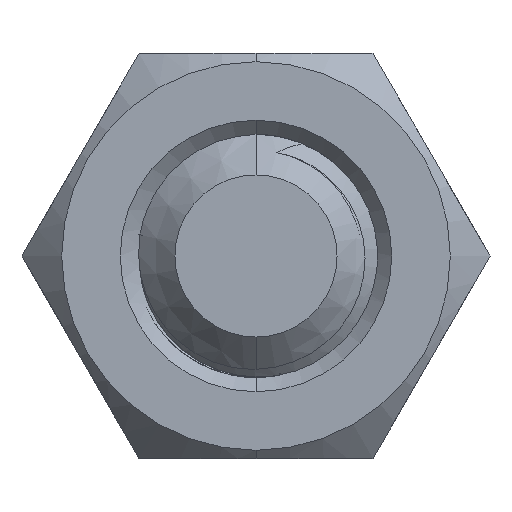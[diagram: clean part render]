
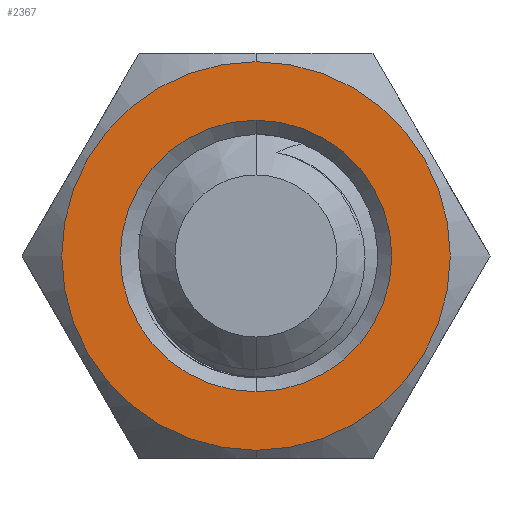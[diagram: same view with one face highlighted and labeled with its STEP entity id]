
A CAD part, front view. The second image highlights one B-rep face of the part: STEP entity #2367.
In plain terms, the highlighted planar face has unit normal (0, -1, 0).
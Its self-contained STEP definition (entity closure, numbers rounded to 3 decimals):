
#1101=CARTESIAN_POINT('',(0.,0.,0.));
#1102=DIRECTION('',(0.,1.,0.));
#1103=DIRECTION('',(0.,0.,-1.));
#1104=AXIS2_PLACEMENT_3D('',#1101,#1102,#1103);
#1106=CARTESIAN_POINT('',(0.,0.,0.));
#1107=DIRECTION('',(0.,1.,0.));
#1108=DIRECTION('',(0.,0.,1.));
#1109=AXIS2_PLACEMENT_3D('',#1106,#1107,#1108);
#1111=CARTESIAN_POINT('',(0.,0.,0.));
#1112=DIRECTION('',(0.,-1.,0.));
#1113=DIRECTION('',(0.,0.,-1.));
#1114=AXIS2_PLACEMENT_3D('',#1111,#1112,#1113);
#1116=CARTESIAN_POINT('',(0.,0.,0.));
#1117=DIRECTION('',(0.,-1.,0.));
#1118=DIRECTION('',(0.,0.,1.));
#1119=AXIS2_PLACEMENT_3D('',#1116,#1117,#1118);
#1153=CARTESIAN_POINT('',(0.,0.,3.35));
#1154=CARTESIAN_POINT('',(0.,0.,-3.35));
#1155=VERTEX_POINT('',#1153);
#1156=VERTEX_POINT('',#1154);
#1169=CARTESIAN_POINT('',(0.,0.,4.794));
#1170=CARTESIAN_POINT('',(0.,0.,-4.794));
#1171=VERTEX_POINT('',#1169);
#1172=VERTEX_POINT('',#1170);
#2354=CARTESIAN_POINT('',(0.,0.,0.));
#2355=DIRECTION('',(0.,1.,0.));
#2356=DIRECTION('',(0.,0.,1.));
#2357=AXIS2_PLACEMENT_3D('',#2354,#2355,#2356);
#2358=PLANE('',#2357);
#2359=ORIENTED_EDGE('',*,*,#2330,.T.);
#2360=ORIENTED_EDGE('',*,*,#2340,.T.);
#2361=EDGE_LOOP('',(#2359,#2360));
#2362=FACE_OUTER_BOUND('',#2361,.F.);
#2363=ORIENTED_EDGE('',*,*,#1364,.T.);
#2364=ORIENTED_EDGE('',*,*,#1252,.T.);
#2365=EDGE_LOOP('',(#2363,#2364));
#2366=FACE_BOUND('',#2365,.F.);
#2367=ADVANCED_FACE('',(#2362,#2366),#2358,.F.);
#1105=CIRCLE('',#1104,4.794);
#1110=CIRCLE('',#1109,4.794);
#1115=CIRCLE('',#1114,3.35);
#1120=CIRCLE('',#1119,3.35);
#1252=EDGE_CURVE('',#1155,#1156,#1120,.T.);
#1364=EDGE_CURVE('',#1156,#1155,#1115,.T.);
#2330=EDGE_CURVE('',#1172,#1171,#1105,.T.);
#2340=EDGE_CURVE('',#1171,#1172,#1110,.T.);
